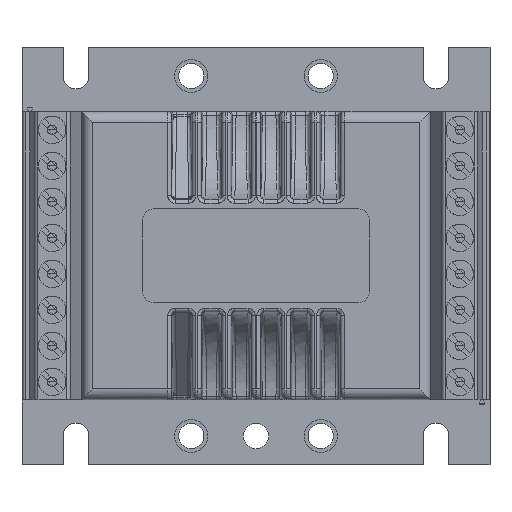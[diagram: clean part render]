
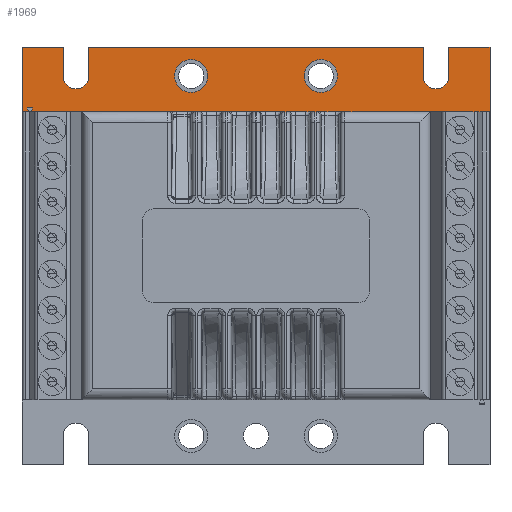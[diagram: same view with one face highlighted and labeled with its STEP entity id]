
A CAD part, top view. The second image highlights one B-rep face of the part: STEP entity #1969.
In plain terms, the highlighted planar face has unit normal (0, 0, 1).
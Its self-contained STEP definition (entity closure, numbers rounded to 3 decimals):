
#885=FACE_BOUND('',#5205,.T.);
#886=FACE_BOUND('',#5206,.T.);
#887=FACE_BOUND('',#5207,.T.);
#1164=CIRCLE('',#21420,1.8);
#1165=CIRCLE('',#21421,1.8);
#1166=CIRCLE('',#21422,2.3);
#1167=CIRCLE('',#21423,2.3);
#1969=ADVANCED_FACE('',(#885,#886,#887),#3250,.T.);
#3250=PLANE('',#21424);
#5205=EDGE_LOOP('',(#6669,#6670,#6671,#6672,#6673,#6674,#6675,#6676,#6677,
#6678,#6679,#6680));
#5206=EDGE_LOOP('',(#6681));
#5207=EDGE_LOOP('',(#6682));
#6669=ORIENTED_EDGE('',*,*,#14584,.F.);
#6670=ORIENTED_EDGE('',*,*,#14585,.F.);
#6671=ORIENTED_EDGE('',*,*,#14586,.F.);
#6672=ORIENTED_EDGE('',*,*,#14587,.T.);
#6673=ORIENTED_EDGE('',*,*,#14588,.F.);
#6674=ORIENTED_EDGE('',*,*,#14589,.F.);
#6675=ORIENTED_EDGE('',*,*,#14590,.F.);
#6676=ORIENTED_EDGE('',*,*,#14591,.T.);
#6677=ORIENTED_EDGE('',*,*,#14592,.T.);
#6678=ORIENTED_EDGE('',*,*,#14593,.F.);
#6679=ORIENTED_EDGE('',*,*,#14594,.F.);
#6680=ORIENTED_EDGE('',*,*,#14595,.F.);
#6681=ORIENTED_EDGE('',*,*,#14596,.T.);
#6682=ORIENTED_EDGE('',*,*,#14597,.T.);
#12699=VERTEX_POINT('',#29764);
#12700=VERTEX_POINT('',#29765);
#12701=VERTEX_POINT('',#29767);
#12702=VERTEX_POINT('',#29769);
#12703=VERTEX_POINT('',#29771);
#12704=VERTEX_POINT('',#29773);
#12705=VERTEX_POINT('',#29775);
#12706=VERTEX_POINT('',#29777);
#12707=VERTEX_POINT('',#29779);
#12708=VERTEX_POINT('',#29781);
#12709=VERTEX_POINT('',#29783);
#12710=VERTEX_POINT('',#29785);
#12711=VERTEX_POINT('',#29788);
#12712=VERTEX_POINT('',#29790);
#14584=EDGE_CURVE('',#12699,#12700,#17591,.T.);
#14585=EDGE_CURVE('',#12701,#12699,#17592,.T.);
#14586=EDGE_CURVE('',#12702,#12701,#17593,.T.);
#14587=EDGE_CURVE('',#12702,#12703,#17594,.T.);
#14588=EDGE_CURVE('',#12704,#12703,#1164,.T.);
#14589=EDGE_CURVE('',#12705,#12704,#17595,.T.);
#14590=EDGE_CURVE('',#12706,#12705,#17596,.T.);
#14591=EDGE_CURVE('',#12706,#12707,#17597,.T.);
#14592=EDGE_CURVE('',#12707,#12708,#1165,.T.);
#14593=EDGE_CURVE('',#12709,#12708,#17598,.T.);
#14594=EDGE_CURVE('',#12710,#12709,#17599,.T.);
#14595=EDGE_CURVE('',#12700,#12710,#17600,.T.);
#14596=EDGE_CURVE('',#12711,#12711,#1166,.T.);
#14597=EDGE_CURVE('',#12712,#12712,#1167,.T.);
#17591=LINE('',#29763,#19509);
#17592=LINE('',#29766,#19510);
#17593=LINE('',#29768,#19511);
#17594=LINE('',#29770,#19512);
#17595=LINE('',#29774,#19513);
#17596=LINE('',#29776,#19514);
#17597=LINE('',#29778,#19515);
#17598=LINE('',#29782,#19516);
#17599=LINE('',#29784,#19517);
#17600=LINE('',#29786,#19518);
#19509=VECTOR('',#23584,1.);
#19510=VECTOR('',#23585,1.);
#19511=VECTOR('',#23586,1.);
#19512=VECTOR('',#23587,1.);
#19513=VECTOR('',#23590,1.);
#19514=VECTOR('',#23591,1.);
#19515=VECTOR('',#23592,1.);
#19516=VECTOR('',#23595,1.);
#19517=VECTOR('',#23596,1.);
#19518=VECTOR('',#23597,1.);
#21420=AXIS2_PLACEMENT_3D('',#29772,#23588,#23589);
#21421=AXIS2_PLACEMENT_3D('',#29780,#23593,#23594);
#21422=AXIS2_PLACEMENT_3D('',#29787,#23598,#23599);
#21423=AXIS2_PLACEMENT_3D('',#29789,#23600,#23601);
#21424=AXIS2_PLACEMENT_3D('',#29791,#23602,#23603);
#23584=DIRECTION('',(-1.,0.,0.));
#23585=DIRECTION('',(0.,-1.,0.));
#23586=DIRECTION('',(1.,0.,0.));
#23587=DIRECTION('',(0.,-1.,0.));
#23588=DIRECTION('',(0.,0.,1.));
#23589=DIRECTION('',(-1.,0.,0.));
#23590=DIRECTION('',(0.,-1.,0.));
#23591=DIRECTION('',(1.,0.,0.));
#23592=DIRECTION('',(0.,-1.,0.));
#23593=DIRECTION('',(0.,0.,-1.));
#23594=DIRECTION('',(1.,0.,0.));
#23595=DIRECTION('',(0.,-1.,0.));
#23596=DIRECTION('',(1.,0.,0.));
#23597=DIRECTION('',(0.,1.,0.));
#23598=DIRECTION('',(0.,0.,-1.));
#23599=DIRECTION('',(-1.,0.,0.));
#23600=DIRECTION('',(0.,0.,-1.));
#23601=DIRECTION('',(-1.,0.,0.));
#23602=DIRECTION('',(0.,0.,1.));
#23603=DIRECTION('',(-1.,0.,0.));
#29763=CARTESIAN_POINT('',(0.,20.,0.));
#29764=CARTESIAN_POINT('',(32.5,20.,0.));
#29765=CARTESIAN_POINT('',(-32.5,20.,0.));
#29766=CARTESIAN_POINT('',(32.5,0.,0.));
#29767=CARTESIAN_POINT('',(32.5,29.,0.));
#29768=CARTESIAN_POINT('',(0.,29.,0.));
#29769=CARTESIAN_POINT('',(26.8,29.,0.));
#29770=CARTESIAN_POINT('',(26.8,33.2,0.));
#29771=CARTESIAN_POINT('',(26.8,25.,0.));
#29772=CARTESIAN_POINT('',(25.,25.,0.));
#29773=CARTESIAN_POINT('',(23.2,25.,0.));
#29774=CARTESIAN_POINT('',(23.2,33.2,0.));
#29775=CARTESIAN_POINT('',(23.2,29.,0.));
#29776=CARTESIAN_POINT('',(0.,29.,0.));
#29777=CARTESIAN_POINT('',(-23.2,29.,0.));
#29778=CARTESIAN_POINT('',(-23.2,33.2,0.));
#29779=CARTESIAN_POINT('',(-23.2,25.,0.));
#29780=CARTESIAN_POINT('',(-25.,25.,0.));
#29781=CARTESIAN_POINT('',(-26.8,25.,0.));
#29782=CARTESIAN_POINT('',(-26.8,33.2,0.));
#29783=CARTESIAN_POINT('',(-26.8,29.,0.));
#29784=CARTESIAN_POINT('',(0.,29.,0.));
#29785=CARTESIAN_POINT('',(-32.5,29.,0.));
#29786=CARTESIAN_POINT('',(-32.5,0.,0.));
#29787=CARTESIAN_POINT('',(-9.,25.,0.));
#29788=CARTESIAN_POINT('',(-11.3,25.,0.));
#29789=CARTESIAN_POINT('',(9.,25.,0.));
#29790=CARTESIAN_POINT('',(6.7,25.,0.));
#29791=CARTESIAN_POINT('',(0.,0.,0.));
